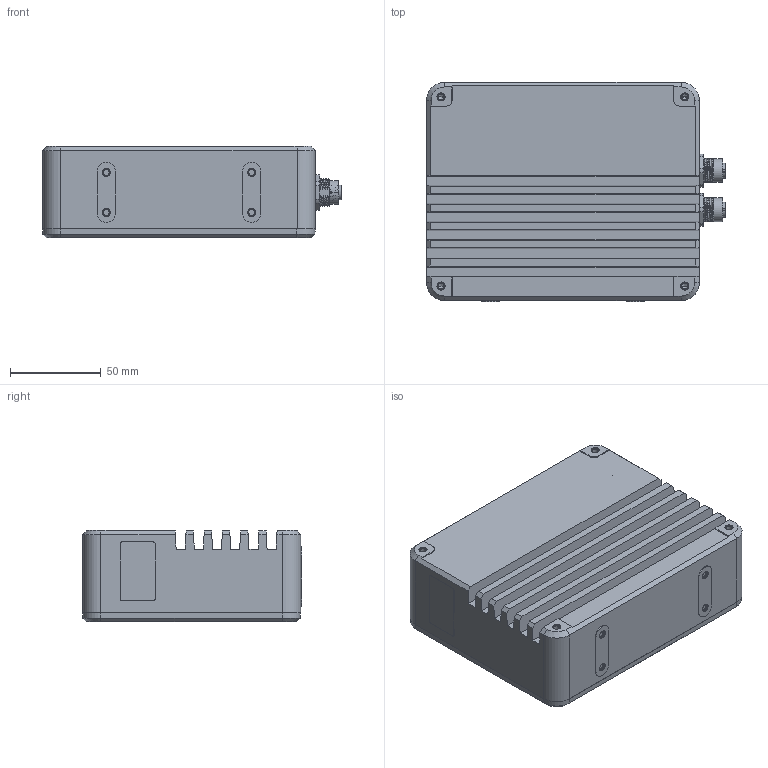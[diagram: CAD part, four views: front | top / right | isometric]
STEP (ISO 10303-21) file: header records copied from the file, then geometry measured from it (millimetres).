
FILE_DESCRIPTION((''),'2;1');
FILE_NAME('0-DH2-0024-1001','2022-04-28T10:16:30',('45602'),(''),'CREO PARAMETRIC BY PTC INC, 2020184','CREO PARAMETRIC BY PTC INC, 2020184','');
FILE_SCHEMA(('CONFIG_CONTROL_DESIGN','SHAPE_APPEARANCE_LAYERS_GROUPS'));
Products named in the file (1): 0-DH2-0024-1001
Bounding box: 164.4 x 120.5 x 50.5 mm (x, y, z)
Volume: 840293 mm3; surface area: 94295.6 mm2
Topology: 12 solids, 58 shells, 1735 faces, 4488 edges, 2889 vertices
Faces by surface type: cylinder 710, plane 558, cone 329, bspline 66, sphere 42, torus 30
Entity records: 82313 total; most frequent: CARTESIAN_POINT 23693, DIRECTION 9141, ORIENTED_EDGE 8632, PRESENTATION_STYLE_ASSIGNMENT 4796, STYLED_ITEM 4425, CURVE_STYLE 4384, EDGE_CURVE 4384, AXIS2_PLACEMENT_3D 3728
